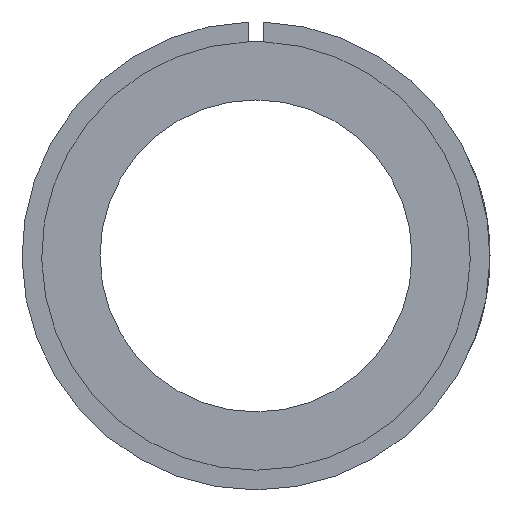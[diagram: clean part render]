
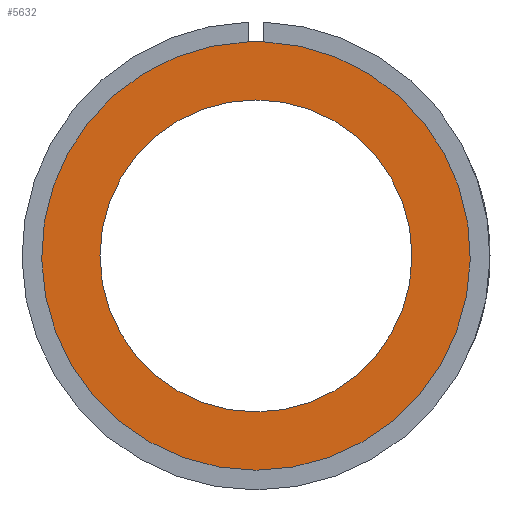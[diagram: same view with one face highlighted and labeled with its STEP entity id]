
A CAD part, left-side view. The second image highlights one B-rep face of the part: STEP entity #5632.
In plain terms, the highlighted planar face has unit normal (-1, 0, 0).
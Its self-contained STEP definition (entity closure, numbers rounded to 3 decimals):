
#130=PLANE('',#6069);
#371=CIRCLE('',#6044,30.);
#384=CIRCLE('',#6070,41.211);
#385=CIRCLE('',#6071,41.211);
#1731=ORIENTED_EDGE('',*,*,#3422,.F.);
#1732=ORIENTED_EDGE('',*,*,#3423,.F.);
#1733=ORIENTED_EDGE('',*,*,#3387,.T.);
#3387=EDGE_CURVE('',#4239,#4239,#371,.F.);
#3422=EDGE_CURVE('',#4262,#4263,#384,.T.);
#3423=EDGE_CURVE('',#4263,#4262,#385,.T.);
#4239=VERTEX_POINT('',#8931);
#4262=VERTEX_POINT('',#9002);
#4263=VERTEX_POINT('',#9003);
#4818=EDGE_LOOP('',(#1731,#1732));
#4819=EDGE_LOOP('',(#1733));
#5216=FACE_BOUND('',#4818,.T.);
#5217=FACE_BOUND('',#4819,.T.);
#5632=ADVANCED_FACE('',(#5216,#5217),#130,.T.);
#6044=AXIS2_PLACEMENT_3D('',#8930,#6609,#6610);
#6069=AXIS2_PLACEMENT_3D('',#9000,#6681,#6682);
#6070=AXIS2_PLACEMENT_3D('',#9001,#6683,#6684);
#6071=AXIS2_PLACEMENT_3D('',#9004,#6685,#6686);
#6609=DIRECTION('',(-1.,0.,0.));
#6610=DIRECTION('',(0.,0.,1.));
#6681=DIRECTION('',(-1.,0.,0.));
#6682=DIRECTION('',(0.,0.,-1.));
#6683=DIRECTION('',(1.,0.,0.));
#6684=DIRECTION('',(0.,0.,-1.));
#6685=DIRECTION('',(1.,0.,0.));
#6686=DIRECTION('',(0.,0.,-1.));
#8930=CARTESIAN_POINT('',(-58.5,0.,0.));
#8931=CARTESIAN_POINT('',(-58.5,0.,30.));
#9000=CARTESIAN_POINT('',(-58.5,0.,0.));
#9001=CARTESIAN_POINT('',(-58.5,0.,0.));
#9002=CARTESIAN_POINT('',(-58.5,1.5,41.184));
#9003=CARTESIAN_POINT('',(-58.5,-1.5,41.184));
#9004=CARTESIAN_POINT('',(-58.5,0.,0.));
